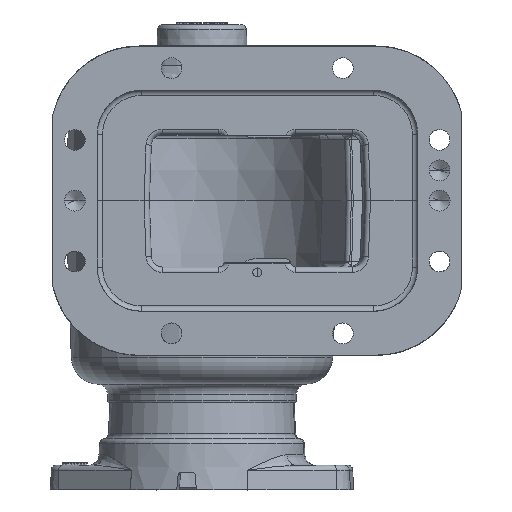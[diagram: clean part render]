
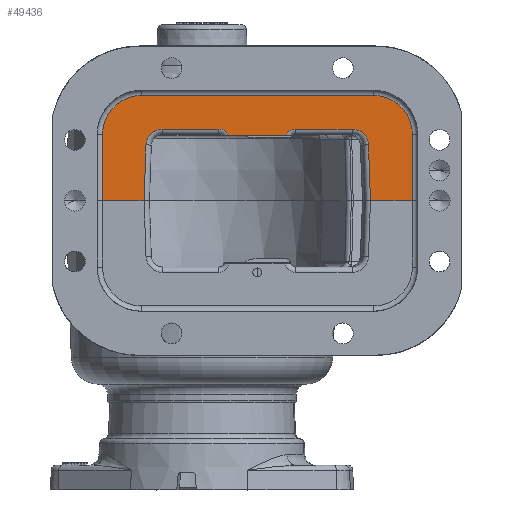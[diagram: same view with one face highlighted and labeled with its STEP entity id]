
A CAD part, front view. The second image highlights one B-rep face of the part: STEP entity #49436.
In plain terms, the highlighted planar face has unit normal (0, -1, 0).
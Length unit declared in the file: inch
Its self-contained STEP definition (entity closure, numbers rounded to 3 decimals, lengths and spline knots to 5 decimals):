
#879 = CARTESIAN_POINT ( 'NONE',  ( 0., -4.3, -3.37 ) ) ;
#1533 = VERTEX_POINT ( 'NONE', #95115 ) ;
#1626 = AXIS2_PLACEMENT_3D ( 'NONE', #57003, #66168, #1831 ) ;
#1831 = DIRECTION ( 'NONE',  ( 0., 0., -1. ) ) ;
#3960 = CARTESIAN_POINT ( 'NONE',  ( -1.62, -4.3, 3.3962 ) ) ;
#4137 = EDGE_CURVE ( 'NONE', #77568, #58309, #73493, .T. ) ;
#4503 = VECTOR ( 'NONE', #31444, 39.37008 ) ;
#5892 = EDGE_LOOP ( 'NONE', ( #6446, #15843, #95785, #99936, #82622, #92454, #41564, #29665, #54760, #9442, #16200, #15837, #65839, #59251, #13761, #74616 ) ) ;
#6067 = DIRECTION ( 'NONE',  ( 0., 1., 0. ) ) ;
#6305 = CARTESIAN_POINT ( 'NONE',  ( 0., -4.3, -1.31007 ) ) ;
#6446 = ORIENTED_EDGE ( 'NONE', *, *, #45102, .F. ) ;
#6965 = DIRECTION ( 'NONE',  ( 0., 0., -1. ) ) ;
#7752 = CARTESIAN_POINT ( 'NONE',  ( 0., -4.3, 4.76 ) ) ;
#8049 = CARTESIAN_POINT ( 'NONE',  ( 0., -4.3, -2.25 ) ) ;
#9442 = ORIENTED_EDGE ( 'NONE', *, *, #96340, .F. ) ;
#11624 = VECTOR ( 'NONE', #99030, 39.37008 ) ;
#12029 = CARTESIAN_POINT ( 'NONE',  ( -1.26291, -4.3, 3.76597 ) ) ;
#12053 = DIRECTION ( 'NONE',  ( 0., -1., 0. ) ) ;
#12301 = DIRECTION ( 'NONE',  ( 0., 0., -1. ) ) ;
#12378 = LINE ( 'NONE', #43499, #18233 ) ;
#12877 = CARTESIAN_POINT ( 'NONE',  ( 0., -4.3, 4.76 ) ) ;
#13761 = ORIENTED_EDGE ( 'NONE', *, *, #44344, .F. ) ;
#13801 = DIRECTION ( 'NONE',  ( 0., 0., 1. ) ) ;
#15837 = ORIENTED_EDGE ( 'NONE', *, *, #32349, .T. ) ;
#15843 = ORIENTED_EDGE ( 'NONE', *, *, #61203, .F. ) ;
#16200 = ORIENTED_EDGE ( 'NONE', *, *, #98020, .F. ) ;
#16228 = LINE ( 'NONE', #879, #83184 ) ;
#16649 = EDGE_CURVE ( 'NONE', #47628, #93953, #67927, .T. ) ;
#16969 = EDGE_CURVE ( 'NONE', #58309, #17370, #36549, .T. ) ;
#17370 = VERTEX_POINT ( 'NONE', #78804 ) ;
#18233 = VECTOR ( 'NONE', #28672, 39.37008 ) ;
#18387 = CARTESIAN_POINT ( 'NONE',  ( 0., -4.3, -3.37 ) ) ;
#19232 = VECTOR ( 'NONE', #13801, 39.37008 ) ;
#20577 = VECTOR ( 'NONE', #6965, 39.37008 ) ;
#21295 = PLANE ( 'NONE',  #93044 ) ;
#21399 = VERTEX_POINT ( 'NONE', #48910 ) ;
#21743 = CARTESIAN_POINT ( 'NONE',  ( -1.62, -4.3, -0.8962 ) ) ;
#21910 = VERTEX_POINT ( 'NONE', #80304 ) ;
#21978 = VERTEX_POINT ( 'NONE', #54209 ) ;
#23283 = FACE_OUTER_BOUND ( 'NONE', #5892, .T. ) ;
#23881 = CARTESIAN_POINT ( 'NONE',  ( -1.38, -4.3, 2.11752 ) ) ;
#25019 = EDGE_CURVE ( 'NONE', #92473, #21910, #60400, .T. ) ;
#25956 = VECTOR ( 'NONE', #67803, 39.37008 ) ;
#26840 = CARTESIAN_POINT ( 'NONE',  ( -1.5, -4.3, -2.25 ) ) ;
#28672 = DIRECTION ( 'NONE',  ( 0., 0., -1. ) ) ;
#29124 = CIRCLE ( 'NONE', #37298, 0.88 ) ;
#29338 = CIRCLE ( 'NONE', #74350, 0.24 ) ;
#29357 = CARTESIAN_POINT ( 'NONE',  ( -1.5, -4.3, -1.37 ) ) ;
#29665 = ORIENTED_EDGE ( 'NONE', *, *, #16649, .F. ) ;
#30871 = VECTOR ( 'NONE', #57024, 39.37008 ) ;
#31232 = CIRCLE ( 'NONE', #88322, 0.24 ) ;
#31444 = DIRECTION ( 'NONE',  ( -0.999, 0., -0.035 ) ) ;
#32349 = EDGE_CURVE ( 'NONE', #83813, #78766, #87831, .T. ) ;
#36549 = LINE ( 'NONE', #90202, #20577 ) ;
#36606 = CARTESIAN_POINT ( 'NONE',  ( -0.00419, -4.3, -1.30993 ) ) ;
#37223 = CARTESIAN_POINT ( 'NONE',  ( -1.62, -4.3, -0.8962 ) ) ;
#37298 = AXIS2_PLACEMENT_3D ( 'NONE', #29357, #91181, #83012 ) ;
#37761 = CARTESIAN_POINT ( 'NONE',  ( -2.38, -4.3, 3.88 ) ) ;
#38352 = DIRECTION ( 'NONE',  ( 1., 0., 0. ) ) ;
#38574 = DIRECTION ( 'NONE',  ( 0., 0., -1. ) ) ;
#40746 = CARTESIAN_POINT ( 'NONE',  ( -1.5, -4.3, 4.76 ) ) ;
#41564 = ORIENTED_EDGE ( 'NONE', *, *, #45147, .F. ) ;
#42420 = CARTESIAN_POINT ( 'NONE',  ( -1.25, -4.3, 3.3962 ) ) ;
#43499 = CARTESIAN_POINT ( 'NONE',  ( -1.47, -4.3, -3.37 ) ) ;
#44344 = EDGE_CURVE ( 'NONE', #100855, #92473, #83738, .T. ) ;
#44760 = DIRECTION ( 'NONE',  ( 0., 1., 0. ) ) ;
#45102 = EDGE_CURVE ( 'NONE', #1533, #21399, #12378, .T. ) ;
#45147 = EDGE_CURVE ( 'NONE', #93953, #100929, #92516, .T. ) ;
#45890 = DIRECTION ( 'NONE',  ( 0., 0., -1. ) ) ;
#46279 = CARTESIAN_POINT ( 'NONE',  ( -1.26291, -4.3, 3.76597 ) ) ;
#47628 = VERTEX_POINT ( 'NONE', #95081 ) ;
#48321 = DIRECTION ( 'NONE',  ( 0., 0., -1. ) ) ;
#48910 = CARTESIAN_POINT ( 'NONE',  ( -1.47, -4.3, 0.60497 ) ) ;
#49436 = ADVANCED_FACE ( 'NONE', ( #23283 ), #21295, .F. ) ;
#53110 = LINE ( 'NONE', #37761, #19232 ) ;
#54209 = CARTESIAN_POINT ( 'NONE',  ( -1.5, -4.3, -2.25 ) ) ;
#54760 = ORIENTED_EDGE ( 'NONE', *, *, #63195, .F. ) ;
#57003 = CARTESIAN_POINT ( 'NONE',  ( -1.25, -4.3, -0.8962 ) ) ;
#57024 = DIRECTION ( 'NONE',  ( -1., 0., 0. ) ) ;
#57062 = DIRECTION ( 'NONE',  ( 0., 0., 1. ) ) ;
#58309 = VERTEX_POINT ( 'NONE', #3960 ) ;
#59251 = ORIENTED_EDGE ( 'NONE', *, *, #25019, .F. ) ;
#59424 = CARTESIAN_POINT ( 'NONE',  ( 0., -4.3, 3.81007 ) ) ;
#60082 = EDGE_CURVE ( 'NONE', #21910, #78766, #71923, .T. ) ;
#60400 = CIRCLE ( 'NONE', #1626, 0.37 ) ;
#61203 = EDGE_CURVE ( 'NONE', #17370, #1533, #29338, .T. ) ;
#62332 = EDGE_CURVE ( 'NONE', #81665, #77568, #68823, .T. ) ;
#63195 = EDGE_CURVE ( 'NONE', #64195, #47628, #53110, .T. ) ;
#64195 = VERTEX_POINT ( 'NONE', #75436 ) ;
#65839 = ORIENTED_EDGE ( 'NONE', *, *, #60082, .F. ) ;
#66168 = DIRECTION ( 'NONE',  ( 0., -1., 0. ) ) ;
#67803 = DIRECTION ( 'NONE',  ( 0.999, 0., -0.035 ) ) ;
#67927 = CIRCLE ( 'NONE', #74470, 0.88 ) ;
#67983 = EDGE_CURVE ( 'NONE', #81665, #100929, #16228, .T. ) ;
#68823 = LINE ( 'NONE', #46279, #4503 ) ;
#69776 = CARTESIAN_POINT ( 'NONE',  ( -3.5, -4.3, -3.37 ) ) ;
#71923 = LINE ( 'NONE', #36606, #25956 ) ;
#72331 = DIRECTION ( 'NONE',  ( 0., 0., -1. ) ) ;
#73361 = CARTESIAN_POINT ( 'NONE',  ( -1.38, -4.3, 0.38248 ) ) ;
#73493 = CIRCLE ( 'NONE', #89794, 0.37 ) ;
#73627 = DIRECTION ( 'NONE',  ( 0., -1., 0. ) ) ;
#74350 = AXIS2_PLACEMENT_3D ( 'NONE', #23881, #86704, #45890 ) ;
#74470 = AXIS2_PLACEMENT_3D ( 'NONE', #76041, #6067, #48321 ) ;
#74616 = ORIENTED_EDGE ( 'NONE', *, *, #83906, .F. ) ;
#74638 = VECTOR ( 'NONE', #79692, 39.37008 ) ;
#75382 = VECTOR ( 'NONE', #38352, 39.37008 ) ;
#75436 = CARTESIAN_POINT ( 'NONE',  ( -2.38, -4.3, -1.37 ) ) ;
#76041 = CARTESIAN_POINT ( 'NONE',  ( -1.5, -4.3, 3.88 ) ) ;
#77568 = VERTEX_POINT ( 'NONE', #12029 ) ;
#78766 = VERTEX_POINT ( 'NONE', #6305 ) ;
#78804 = CARTESIAN_POINT ( 'NONE',  ( -1.62, -4.3, 2.11752 ) ) ;
#79692 = DIRECTION ( 'NONE',  ( 0., 0., 1. ) ) ;
#80304 = CARTESIAN_POINT ( 'NONE',  ( -1.26291, -4.3, -1.26597 ) ) ;
#81665 = VERTEX_POINT ( 'NONE', #59424 ) ;
#82622 = ORIENTED_EDGE ( 'NONE', *, *, #62332, .F. ) ;
#83012 = DIRECTION ( 'NONE',  ( 0., 0., -1. ) ) ;
#83184 = VECTOR ( 'NONE', #57062, 39.37008 ) ;
#83738 = LINE ( 'NONE', #37223, #11624 ) ;
#83813 = VERTEX_POINT ( 'NONE', #8049 ) ;
#83906 = EDGE_CURVE ( 'NONE', #21399, #100855, #31232, .T. ) ;
#86704 = DIRECTION ( 'NONE',  ( 0., -1., 0. ) ) ;
#86950 = CARTESIAN_POINT ( 'NONE',  ( -1.62, -4.3, 0.38248 ) ) ;
#87831 = LINE ( 'NONE', #18387, #74638 ) ;
#88322 = AXIS2_PLACEMENT_3D ( 'NONE', #73361, #12053, #72331 ) ;
#89158 = LINE ( 'NONE', #26840, #30871 ) ;
#89794 = AXIS2_PLACEMENT_3D ( 'NONE', #42420, #73627, #12301 ) ;
#90202 = CARTESIAN_POINT ( 'NONE',  ( -1.62, -4.3, 2.11752 ) ) ;
#91181 = DIRECTION ( 'NONE',  ( 0., 1., 0. ) ) ;
#92454 = ORIENTED_EDGE ( 'NONE', *, *, #67983, .T. ) ;
#92473 = VERTEX_POINT ( 'NONE', #21743 ) ;
#92516 = LINE ( 'NONE', #7752, #75382 ) ;
#93044 = AXIS2_PLACEMENT_3D ( 'NONE', #69776, #44760, #38574 ) ;
#93953 = VERTEX_POINT ( 'NONE', #40746 ) ;
#95081 = CARTESIAN_POINT ( 'NONE',  ( -2.38, -4.3, 3.88 ) ) ;
#95115 = CARTESIAN_POINT ( 'NONE',  ( -1.47, -4.3, 1.89503 ) ) ;
#95785 = ORIENTED_EDGE ( 'NONE', *, *, #16969, .F. ) ;
#96340 = EDGE_CURVE ( 'NONE', #21978, #64195, #29124, .T. ) ;
#98020 = EDGE_CURVE ( 'NONE', #83813, #21978, #89158, .T. ) ;
#99030 = DIRECTION ( 'NONE',  ( 0., 0., -1. ) ) ;
#99936 = ORIENTED_EDGE ( 'NONE', *, *, #4137, .F. ) ;
#100855 = VERTEX_POINT ( 'NONE', #86950 ) ;
#100929 = VERTEX_POINT ( 'NONE', #12877 ) ;
